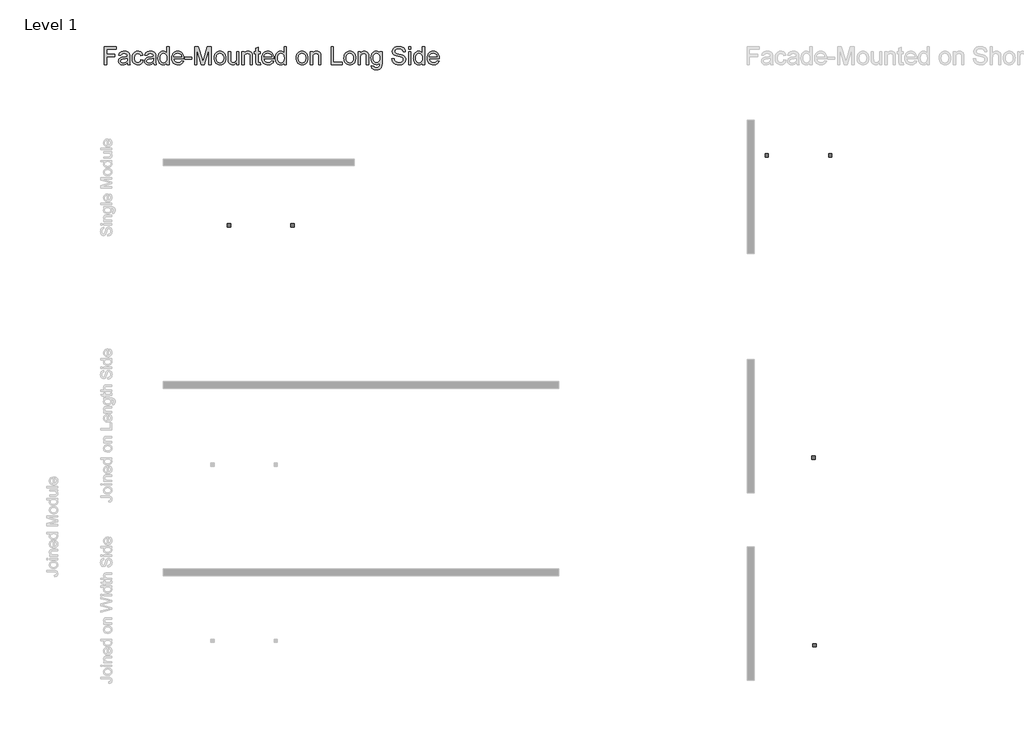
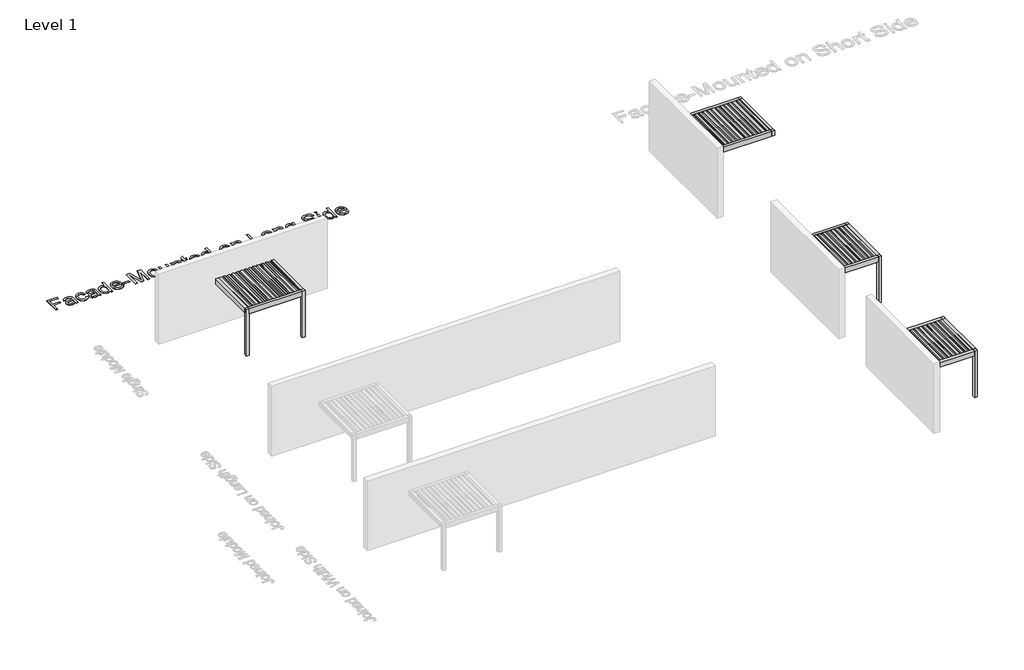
# One storey, part 12 of 69: 5 proxies.
"""IFC4 building model written with IfcOpenShell, lengths in millimetres."""

from ifc_helpers import new_model, si_unit, origin, origin_with_axes, place, context, project, spatial, polyline, outline, extrude, transform, mapped, element, save
from components import generic_models_66309c40, generic_models_ce49d216

model = new_model("IFC4")

# Units and contexts
model_context = context("Model", 3, world=origin())
ifc_project = project(units=[si_unit("LENGTHUNIT", "METRE", prefix="MILLI")], contexts=[model_context])

# Site, building, storey
site = spatial("IfcSite", under=ifc_project)
building = spatial("IfcBuilding", under=site)
storey = spatial("IfcBuildingStorey", under=building, Name="Level 1", Elevation=0.0)

# Proxies
placement = place(None, origin())
generic_models_shape = generic_models_66309c40(model_context)
element("IfcBuildingElementProxy", 1, Name="Renson_Camargue_Facade-Mounted_Patio covers : Renson_Camargue_Facade-Mounted_Patio covers", ObjectType="Renson_Camargue_Facade-Mounted_Patio covers : Renson_Camargue_Facade-Mounted_Patio covers", at=placement, inside=storey, context=model_context, shape_type="MappedRepresentation", body=[
    mapped(generic_models_shape, transform((14153.165057, -29850.5588086, 0.0), x_axis=(1.0, 0.0, 0.0), y_axis=(0.0, 1.0, 0.0), z_axis=(0.0, 0.0, 1.0))),
])
element("IfcBuildingElementProxy", 2, Name="Renson_Camargue_Facade-Mounted_Patio covers : Renson_Camargue_Facade-Mounted_Patio covers", ObjectType="Renson_Camargue_Facade-Mounted_Patio covers : Renson_Camargue_Facade-Mounted_Patio covers", at=placement, inside=storey, context=model_context, shape_type="MappedRepresentation", body=[
    mapped(generic_models_shape, transform((14111.7174277, -21425.9863343, 0.0), x_axis=(1.0, 0.0, 0.0), y_axis=(0.0, 1.0, 0.0), z_axis=(0.0, 0.0, 1.0))),
])
generic_models_2_shape = generic_models_ce49d216(model_context)
element("IfcBuildingElementProxy", 3, Name="Renson_Camargue_Facade-Mounted_Patio covers : Renson_Camargue_Facade-Mounted_Patio covers", ObjectType="Renson_Camargue_Facade-Mounted_Patio covers : Renson_Camargue_Facade-Mounted_Patio covers", at=placement, inside=storey, context=model_context, shape_type="MappedRepresentation", body=[
    mapped(generic_models_2_shape, transform((-9296.834943, -10975.9863343, 0.0), x_axis=(-1.0, 0.0, 0.0), y_axis=(0.0, -1.0, 0.0), z_axis=(0.0, 0.0, 1.0))),
])
element("IfcBuildingElementProxy", 4, Name="Renson_Camargue_Facade-Mounted_Patio covers : Renson_Camargue_Facade-Mounted_Patio covers", ObjectType="Renson_Camargue_Facade-Mounted_Patio covers : Renson_Camargue_Facade-Mounted_Patio covers", at=placement, inside=storey, context=model_context, shape_type="MappedRepresentation", body=[
    mapped(generic_models_2_shape, transform((14861.7174277, -10675.9863343, 0.0), x_axis=(1.0, 0.0, 0.0), y_axis=(0.0, 1.0, 0.0), z_axis=(0.0, 0.0, 1.0))),
])
element("IfcBuildingElementProxy", 5, Name="800mm Arial", ObjectType="800mm Arial", at=placement, inside=storey, context=model_context, shape_type="SweptSolid", body=[
    extrude(outline(polyline([(-16325.707895, -5171.4138599), (-16325.707895, -4372.0251615), (-15788.6186133, -4372.0251615), (-15788.6186133, -4471.9487488), (-16225.7843077, -4471.9487488), (-16225.7843077, -4709.2672686), (-15851.0708554, -4709.2672686), (-15851.0708554, -4809.1908559), (-16225.7843077, -4809.1908559), (-16225.7843077, -5171.4138599), (-16325.707895, -5171.4138599)])), origin_with_axes(), (0.0, 0.0, 1.0), 5.0),
    extrude(outline(polyline([(-15289.0006769, -5096.4711694), (-15336.7424885, -5137.4066624), (-15361.1439944, -5152.5684079), (-15385.8992337, -5164.1928194), (-15437.5931012, -5178.9764361), (-15492.9462798, -5183.9043083), (-15537.4374035, -5180.9402663), (-15576.4517582, -5172.0481404), (-15609.989344, -5157.2279307), (-15638.050161, -5136.479637), (-15660.2072895, -5111.1206113), (-15676.0338098, -5082.4682057), (-15685.529722, -5050.5224202), (-15688.695026, -5015.2832547), (-15683.9135263, -4973.8598535), (-15669.5690269, -4936.2421359), (-15647.4423927, -4904.0401986), (-15619.3144884, -4878.8641385), (-15586.2587118, -4859.835721), (-15549.348461, -4846.0767114), (-15462.8911384, -4831.0491406), (-15360.7231736, -4815.2409169), (-15289.5861666, -4796.7004075), (-15289.0006769, -4774.4517963), (-15290.7205531, -4750.2271571), (-15295.8801817, -4729.8569922), (-15304.4795627, -4713.3413016), (-15316.518696, -4700.6800854), (-15337.3279782, -4688.0432645), (-15362.6748062, -4679.0169639), (-15392.5591798, -4673.6011835), (-15426.9810992, -4671.7959234), (-15486.5058924, -4676.6018186), (-15509.5351566, -4682.6091876), (-15528.075666, -4691.0195042), (-15543.3105977, -4702.4914443), (-15556.423129, -4717.6836841), (-15567.4132599, -4736.5962234), (-15576.2809903, -4759.2290623), (-15676.2045776, -4746.7386139), (-15658.8594432, -4692.0929021), (-15646.9849788, -4669.1612194), (-15632.9759163, -4649.1569857), (-15616.2284694, -4631.6776765), (-15596.1388517, -4616.3207678), (-15572.7070632, -4603.0862594), (-15545.933104, -4591.9741515), (-15484.5298644, -4576.89779), (-15414.1003242, -4571.8723361), (-15346.5494421, -4576.3123002), (-15293.0015236, -4589.6321924), (-15252.627125, -4609.6608216), (-15224.5968023, -4634.2269965), (-15206.0075021, -4664.5992783), (-15193.956171, -4702.0462281), (-15190.2968599, -4736.5901245), (-15189.0770896, -4789.479367), (-15189.0770896, -4913.7983614), (-15187.8085284, -5022.0895733), (-15184.0028449, -5087.396078), (-15176.4890595, -5130.307599), (-15164.0961928, -5171.4138599), (-15264.0197801, -5171.4138599), (-15280.0231671, -5136.6748002), (-15289.0006769, -5096.4711694)]), holes=[polyline([(-15289.0006769, -4896.6239948), (-15356.1368371, -4913.2616624), (-15450.2055267, -4927.2646261), (-15502.0457667, -4934.9247839), (-15536.1749411, -4943.4631764), (-15558.5455294, -4954.5386912), (-15575.1100108, -4969.810216), (-15585.3560818, -4988.1067713), (-15588.7714388, -5008.2573775), (-15586.911289, -5023.7850541), (-15581.3308396, -5037.9709833), (-15572.0300907, -5050.8151651), (-15559.0090421, -5062.3175995), (-15542.3896711, -5071.7952152), (-15522.2939545, -5078.5649406), (-15471.6734849, -5083.980721), (-15418.0035894, -5078.0038463), (-15393.5106007, -5070.5327528), (-15370.5789181, -5060.0732221), (-15332.1317565, -5033.6529962), (-15305.3943904, -5002.2073165), (-15293.5382226, -4969.810216), (-15289.5861666, -4924.922667), (-15289.0006769, -4896.6239948)])]), origin_with_axes(), (0.0, 0.0, 1.0), 5.0),
    extrude(outline(polyline([(-14676.9687047, -4959.0762369), (-14577.0451174, -4971.5666853), (-14587.9132713, -5018.7169083), (-14604.9046723, -5060.4391532), (-14628.0193205, -5096.73342), (-14657.2572158, -5127.5997088), (-14691.3863903, -5152.2329711), (-14729.1748758, -5169.8281584), (-14770.6226724, -5180.3852708), (-14815.72978, -5183.9043083), (-14871.7721289, -5178.9947326), (-14922.0205686, -5164.2660056), (-14966.4750991, -5139.7181272), (-15005.1357204, -5105.3510976), (-15036.4289288, -5061.8113948), (-15058.7812205, -5009.7454973), (-15072.1925955, -4949.153405), (-15076.6630539, -4880.035118), (-15074.7541133, -4834.0924677), (-15069.0272915, -4791.1138593), (-15059.4825885, -4751.0992929), (-15046.1200042, -4714.0487684), (-15028.8480561, -4680.7063458), (-15007.5752611, -4651.816085), (-14982.3016194, -4627.377986), (-14953.0271309, -4607.3920488), (-14921.0752465, -4591.8521745), (-14887.7694171, -4580.7522643), (-14853.1096425, -4574.0923181), (-14817.0959228, -4571.8723361), (-14772.7633694, -4574.921762), (-14732.663419, -4584.0700396), (-14696.7960718, -4599.317169), (-14665.1613277, -4620.6631502), (-14638.2958857, -4647.620075), (-14616.7364447, -4679.7000353), (-14600.4830047, -4716.903031), (-14589.5355658, -4759.2290623), (-14689.4591531, -4771.7195107), (-14697.2595845, -4748.379205), (-14707.5849406, -4728.1249183), (-14720.4352212, -4710.9566506), (-14735.8104265, -4696.8744019), (-14753.3202299, -4685.9025675), (-14772.574305, -4678.065543), (-14793.5726516, -4673.3633283), (-14816.3152698, -4671.7959234), (-14850.2675776, -4674.8819424), (-14880.8899123, -4684.1399994), (-14908.1822739, -4699.5700943), (-14932.1446625, -4721.1722273), (-14951.6548893, -4749.4465041), (-14965.5907656, -4784.8930305), (-14973.9522913, -4827.5118066), (-14976.7394666, -4877.3028324), (-14974.0132798, -4927.844017), (-14965.8347196, -4970.9568001), (-14952.2037859, -5006.6411818), (-14933.1204788, -5034.897162), (-14909.6338006, -5056.3712191), (-14882.792754, -5071.7098312), (-14852.5973389, -5080.9129985), (-14819.0475554, -5083.980721), (-14792.0113455, -5082.0656815), (-14767.304897, -5076.3205632), (-14744.9282099, -5066.7453659), (-14724.8812842, -5053.3400897), (-14707.7252142, -5035.9583622), (-14694.0210942, -5014.4538109), (-14683.7689244, -4988.8264358), (-14676.9687047, -4959.0762369)])), origin_with_axes(), (0.0, 0.0, 1.0), 5.0),
    extrude(outline(polyline([(-14114.8985262, -5096.4711694), (-14162.6403378, -5137.4066624), (-14187.0418437, -5152.5684079), (-14211.797083, -5164.1928194), (-14263.4909506, -5178.9764361), (-14318.8441292, -5183.9043083), (-14363.3352528, -5180.9402663), (-14402.3496075, -5172.0481404), (-14435.8871933, -5157.2279307), (-14463.9480103, -5136.479637), (-14486.1051388, -5111.1206113), (-14501.9316591, -5082.4682057), (-14511.4275713, -5050.5224202), (-14514.5928754, -5015.2832547), (-14509.8113756, -4973.8598535), (-14495.4668762, -4936.2421359), (-14473.340242, -4904.0401986), (-14445.2123377, -4878.8641385), (-14412.1565611, -4859.835721), (-14375.2463103, -4846.0767114), (-14288.7889877, -4831.0491406), (-14186.6210229, -4815.2409169), (-14115.484016, -4796.7004075), (-14114.8985262, -4774.4517963), (-14116.6184024, -4750.2271571), (-14121.778031, -4729.8569922), (-14130.377412, -4713.3413016), (-14142.4165453, -4700.6800854), (-14163.2258276, -4688.0432645), (-14188.5726555, -4679.0169639), (-14218.4570291, -4673.6011835), (-14252.8789485, -4671.7959234), (-14312.4037417, -4676.6018186), (-14335.433006, -4682.6091876), (-14353.9735153, -4691.0195042), (-14369.208447, -4702.4914443), (-14382.3209783, -4717.6836841), (-14393.3111092, -4736.5962234), (-14402.1788397, -4759.2290623), (-14502.1024269, -4746.7386139), (-14484.7572925, -4692.0929021), (-14472.8828281, -4669.1612194), (-14458.8737656, -4649.1569857), (-14442.1263187, -4631.6776765), (-14422.036701, -4616.3207678), (-14398.6049125, -4603.0862594), (-14371.8309533, -4591.9741515), (-14310.4277137, -4576.89779), (-14239.9981736, -4571.8723361), (-14172.4472914, -4576.3123002), (-14118.8993729, -4589.6321924), (-14078.5249743, -4609.6608216), (-14050.4946516, -4634.2269965), (-14031.9053514, -4664.5992783), (-14019.8540203, -4702.0462281), (-14016.1947092, -4736.5901245), (-14014.9749389, -4789.479367), (-14014.9749389, -4913.7983614), (-14013.7063777, -5022.0895733), (-14009.9006942, -5087.396078), (-14002.3869089, -5130.307599), (-13989.9940421, -5171.4138599), (-14089.9176294, -5171.4138599), (-14105.9210164, -5136.6748002), (-14114.8985262, -5096.4711694)]), holes=[polyline([(-14114.8985262, -4896.6239948), (-14182.0346864, -4913.2616624), (-14276.103376, -4927.2646261), (-14327.943616, -4934.9247839), (-14362.0727905, -4943.4631764), (-14384.4433787, -4954.5386912), (-14401.0078601, -4969.810216), (-14411.2539311, -4988.1067713), (-14414.6692881, -5008.2573775), (-14412.8091383, -5023.7850541), (-14407.2286889, -5037.9709833), (-14397.92794, -5050.8151651), (-14384.9068915, -5062.3175995), (-14368.2875204, -5071.7952152), (-14348.1918038, -5078.5649406), (-14297.5713342, -5083.980721), (-14243.9014387, -5078.0038463), (-14219.40845, -5070.5327528), (-14196.4767674, -5060.0732221), (-14158.0296059, -5033.6529962), (-14131.2922397, -5002.2073165), (-14119.4360719, -4969.810216), (-14115.484016, -4924.922667), (-14114.8985262, -4896.6239948)])]), origin_with_axes(), (0.0, 0.0, 1.0), 5.0),
    extrude(outline(polyline([(-13515.3570024, -5171.4138599), (-13515.3570024, -5077.150007), (-13545.2535738, -5123.8550138), (-13562.5712634, -5142.2034093), (-13581.4685555, -5157.215733), (-13601.9454503, -5168.8919847), (-13624.0019477, -5177.2321644), (-13647.6380478, -5182.2362723), (-13672.8537504, -5183.9043083), (-13705.8363407, -5181.489163), (-13737.4527882, -5174.2437271), (-13767.703093, -5162.1680006), (-13796.5872549, -5145.2619835), (-13823.202644, -5124.0318805), (-13846.6466302, -5098.9838963), (-13866.9192135, -5070.1180309), (-13884.0203938, -5037.4342843), (-13897.5964379, -5001.5547394), (-13907.2936122, -4963.101479), (-13913.1119167, -4922.0745032), (-13915.0513516, -4878.473812), (-13913.264388, -4835.6720703), (-13907.9034973, -4794.8951474), (-13898.9686795, -4756.1430433), (-13886.4599345, -4719.415758), (-13870.3833613, -4685.7866893), (-13850.7450586, -4656.3292353), (-13827.5450265, -4631.0433959), (-13800.783265, -4609.9291711), (-13771.405096, -4593.2793058), (-13740.3558417, -4581.3865449), (-13707.635502, -4574.2508883), (-13673.2440769, -4571.8723361), (-13648.0924122, -4573.5739157), (-13624.3556811, -4578.6786547), (-13602.0338837, -4587.1865529), (-13581.1270198, -4599.0976104), (-13544.4851185, -4630.3969176), (-13515.3570024, -4669.8442908), (-13515.3570024, -4372.0251615), (-13415.4334151, -4372.0251615), (-13415.4334151, -5171.4138599), (-13515.3570024, -5171.4138599)]), holes=[polyline([(-13815.1277643, -4878.0834854), (-13812.3100948, -4926.5388627), (-13803.8570862, -4968.4684686), (-13789.7687387, -5003.8723031), (-13770.0450521, -5032.7503662), (-13746.4912866, -5055.1636464), (-13720.9127023, -5071.1731323), (-13693.3092992, -5080.7788238), (-13663.6810773, -5083.980721), (-13633.9125819, -5080.9251962), (-13606.4738478, -5071.758622), (-13581.3648751, -5056.4809984), (-13558.5856637, -5035.0923252), (-13539.6731244, -5007.4218348), (-13526.1641678, -4973.2987592), (-13518.0587938, -4932.7230984), (-13515.3570024, -4885.6948524), (-13518.1075846, -4834.1351596), (-13526.359331, -4789.9184844), (-13540.1122417, -4753.0448266), (-13559.3663168, -4723.5141864), (-13582.6456339, -4700.8874463), (-13608.4742712, -4684.7254891), (-13636.8522284, -4675.0283148), (-13667.7795057, -4671.7959234), (-13697.9932173, -4674.9002389), (-13725.5966204, -4684.2131856), (-13750.5897149, -4699.7347633), (-13772.9725009, -4721.4649722), (-13791.4154287, -4749.8795225), (-13804.5889485, -4785.4541249), (-13812.4930603, -4828.1887792), (-13815.1277643, -4878.0834854)])]), origin_with_axes(), (0.0, 0.0, 1.0), 5.0),
    extrude(outline(polyline([(-12854.5342162, -4996.5475821), (-12756.5622614, -5009.0380305), (-12771.5837333, -5048.2780428), (-12791.8624154, -5082.8585323), (-12817.3983078, -5112.779499), (-12848.1914103, -5138.040943), (-12883.9245828, -5158.1061653), (-12924.2806849, -5172.438467), (-12969.2597167, -5181.0378479), (-13018.8616781, -5183.9043083), (-13080.8626051, -5178.9581395), (-13136.1060044, -5164.1196332), (-13184.5918759, -5139.3887893), (-13226.3202197, -5104.7656078), (-13259.8761021, -5061.2137074), (-13283.8445895, -5009.6967065), (-13298.2256819, -4950.2146053), (-13303.0193794, -4882.7674036), (-13298.1768911, -4813.0331325), (-13283.6494262, -4751.5689045), (-13259.4369847, -4698.3747194), (-13243.6988978, -4674.878893), (-13225.5395666, -4653.4505773), (-13183.9210022, -4617.7600968), (-13136.5451217, -4592.2668964), (-13083.4119251, -4576.9709762), (-13024.5214125, -4571.8723361), (-12967.5276428, -4576.9587785), (-12915.9862465, -4592.2181056), (-12869.8972237, -4617.6503174), (-12829.2605744, -4653.255414), (-12796.0889197, -4698.0819745), (-12772.3948806, -4751.178578), (-12758.1784571, -4812.5452244), (-12753.4396493, -4882.1819138), (-12754.0251391, -4909.1144432), (-13203.0957921, -4909.1144432), (-13197.3079818, -4948.9887361), (-13185.7994485, -4983.9107612), (-13168.5701923, -5013.8805188), (-13145.6202131, -5038.8980087), (-13118.2180721, -5058.6216954), (-13087.6323306, -5072.7100429), (-13053.8629883, -5081.1630515), (-13016.9100455, -5083.980721), (-12963.7280581, -5078.7601039), (-12918.9380908, -5063.0982525), (-12899.6901146, -5051.10791), (-12882.5401435, -5036.0193507), (-12867.4881773, -5017.8325748), (-12854.5342162, -4996.5475821)]), holes=[polyline([(-13203.0957921, -4809.1908559), (-12853.3632366, -4809.1908559), (-12858.4984698, -4780.9165792), (-12866.8782921, -4756.3991951), (-12878.5027036, -4735.6387037), (-12893.3717042, -4718.6351049), (-12920.6213739, -4698.142963), (-12951.6279362, -4683.5057188), (-12986.3913913, -4674.7233722), (-13024.911739, -4671.7959234), (-13060.047224, -4674.1317836), (-13092.2674579, -4681.1393643), (-13121.5724406, -4692.8186654), (-13147.9621722, -4709.169687), (-13170.107103, -4729.4361714), (-13186.6776832, -4752.861861), (-13197.6739129, -4779.4467559), (-13203.0957921, -4809.1908559)])]), origin_with_axes(), (0.0, 0.0, 1.0), 5.0),
    extrude(outline(polyline([(-12703.4778557, -4934.09534), (-12703.4778557, -4834.1717528), (-12391.2166454, -4834.1717528), (-12391.2166454, -4934.09534), (-12703.4778557, -4934.09534)])), origin_with_axes(), (0.0, 0.0, 1.0), 5.0),
    extrude(outline(polyline([(-12266.3121613, -5171.4138599), (-12266.3121613, -4372.0251615), (-12094.3733324, -4372.0251615), (-11930.8265235, -4935.4614828), (-11897.8439331, -5053.1449265), (-11862.1290572, -4925.70332), (-11701.3145339, -4372.0251615), (-11529.375705, -4372.0251615), (-11529.375705, -5171.4138599), (-11629.2992923, -5171.4138599), (-11629.2992923, -4471.9487488), (-11830.1222831, -5171.4138599), (-11965.5655831, -5171.4138599), (-12166.388574, -4471.9487488), (-12166.388574, -5171.4138599), (-12266.3121613, -5171.4138599)])), origin_with_axes(), (0.0, 0.0, 1.0), 5.0),
    extrude(outline(polyline([(-11391.9807725, -4877.8883222), (-11386.5771898, -4801.8600361), (-11379.8227115, -4767.7888007), (-11370.3664418, -4736.3461705), (-11358.2083808, -4707.5321453), (-11343.3485285, -4681.3467253), (-11325.7868848, -4657.7899103), (-11305.5234499, -4636.8617005), (-11267.4422194, -4608.4288536), (-11225.4089331, -4588.1196772), (-11179.4235908, -4575.9341714), (-11129.4861926, -4571.8723361), (-11074.3586715, -4576.8185049), (-11024.512756, -4591.6570112), (-10979.9484462, -4616.3878551), (-10940.665742, -4651.0110366), (-10908.6040782, -4694.3555761), (-10885.7028899, -4745.250494), (-10871.9621768, -4803.6957905), (-10867.3819392, -4869.6914654), (-10869.406758, -4923.1783954), (-10875.4812143, -4970.6396598), (-10885.6053082, -5012.0752587), (-10899.7790397, -5047.485192), (-10917.8255421, -5078.0709336), (-10939.5679486, -5105.0339573), (-10965.0062593, -5128.374263), (-10994.1404742, -5148.0918507), (-11025.8362068, -5163.7598009), (-11058.9590708, -5174.9511939), (-11093.509066, -5181.6660297), (-11129.4861926, -5183.9043083), (-11185.4187621, -5178.9764361), (-11235.7281903, -5164.1928194), (-11280.4144771, -5139.5534583), (-11319.4776227, -5105.0583527), (-11351.1977507, -5061.2929924), (-11373.854985, -5008.8428673), (-11387.4493256, -4947.7079772), (-11391.9807725, -4877.8883222)]), holes=[polyline([(-11292.0571852, -4877.6931589), (-11289.1663294, -4926.1607339), (-11280.4937622, -4968.1269329), (-11266.0394835, -5003.5917559), (-11245.8034934, -5032.5552029), (-11221.1885277, -5055.0538671), (-11193.5973223, -5071.1243415), (-11163.0298773, -5080.7666261), (-11129.4861926, -5083.980721), (-11096.1132757, -5080.7483295), (-11065.6678077, -5071.0511552), (-11038.1497885, -5054.8891981), (-11013.5592182, -5032.262458), (-10993.3232281, -5003.012365), (-10978.8689494, -4966.9803488), (-10970.1963822, -4924.1664094), (-10967.3055265, -4874.5705468), (-10970.2146788, -4827.6398825), (-10978.9421356, -4786.7714768), (-10993.4878971, -4751.9653298), (-11013.8519631, -4723.2214415), (-11038.5340162, -4700.7227773), (-11066.0337388, -4684.6523029), (-11096.3511309, -4675.0100183), (-11129.4861926, -4671.7959234), (-11163.0298773, -4674.9978206), (-11193.5973223, -4684.6035121), (-11221.1885277, -4700.612998), (-11245.8034934, -4723.0262782), (-11266.0394835, -4751.9043413), (-11280.4937622, -4787.3081758), (-11289.1663294, -4829.2377817), (-11292.0571852, -4877.6931589)])]), origin_with_axes(), (0.0, 0.0, 1.0), 5.0),
    extrude(outline(polyline([(-10380.2544511, -5171.4138599), (-10380.2544511, -5070.5144563), (-10397.5873878, -5097.0902028), (-10416.4084444, -5120.1225165), (-10436.7176207, -5139.6113973), (-10458.5149169, -5155.5568453), (-10481.800333, -5167.9588603), (-10506.5738688, -5176.8174425), (-10532.8355245, -5182.1325918), (-10560.5853001, -5183.9043083), (-10609.2541371, -5178.9276452), (-10654.556408, -5163.9976561), (-10692.5644522, -5141.5538816), (-10719.3506092, -5114.0358625), (-10737.378815, -5080.6141548), (-10749.1130058, -5040.4593148), (-10753.504179, -5002.5976431), (-10754.9679035, -4947.5616047), (-10754.9679035, -4584.3627845), (-10655.0443162, -4584.3627845), (-10655.0443162, -4900.5272599), (-10653.5318009, -4963.760155), (-10648.9942552, -5002.4024798), (-10643.0112816, -5020.4123891), (-10634.4301972, -5036.3852818), (-10623.2510019, -5050.3211581), (-10609.4736958, -5062.2200179), (-10593.5130007, -5071.7403255), (-10575.7836387, -5078.5405452), (-10535.0189135, -5083.980721), (-10491.9122292, -5078.4185682), (-10451.5866213, -5061.7321098), (-10433.540119, -5049.6014936), (-10418.3356815, -5035.4582564), (-10405.973309, -5019.302398), (-10396.4530014, -5001.1339186), (-10384.3040887, -4954.1239692), (-10380.2544511, -4889.7932808), (-10380.2544511, -4584.3627845), (-10280.3308638, -4584.3627845), (-10280.3308638, -5171.4138599), (-10380.2544511, -5171.4138599)])), origin_with_axes(), (0.0, 0.0, 1.0), 5.0),
    extrude(outline(polyline([(-10142.9359313, -5171.4138599), (-10142.9359313, -4584.3627845), (-10043.012344, -4584.3627845), (-10043.012344, -4666.3313522), (-10026.5271477, -4644.1925203), (-10008.2976798, -4625.0055327), (-9988.3239402, -4608.7703893), (-9966.6059291, -4595.4870901), (-9943.1436464, -4585.1556352), (-9917.937092, -4577.7760246), (-9862.2911686, -4571.8723361), (-9813.0368417, -4576.6294405), (-9767.9297341, -4590.9007536), (-9730.3120164, -4612.9054108), (-9703.5258594, -4640.8625473), (-9685.3512812, -4674.6989768), (-9673.5682996, -4714.3415133), (-9669.6162436, -4752.2519759), (-9668.2988917, -4810.9473252), (-9668.2988917, -5171.4138599), (-9768.222479, -5171.4138599), (-9768.222479, -4824.4135899), (-9771.101137, -4772.7441178), (-9779.7371111, -4736.0046348), (-9795.6673119, -4709.6819906), (-9820.42865, -4689.2630349), (-9852.1670746, -4676.1627013), (-9889.0285347, -4671.7959234), (-9919.3703222, -4674.2476618), (-9947.5531162, -4681.602877), (-9973.5769167, -4693.8615691), (-9997.4417236, -4711.0237379), (-10017.37887, -4735.0410162), (-10031.6196889, -4767.8650364), (-10040.1641802, -4809.4957985), (-10043.012344, -4859.9333026), (-10043.012344, -5171.4138599), (-10142.9359313, -5171.4138599)])), origin_with_axes(), (0.0, 0.0, 1.0), 5.0),
    extrude(outline(polyline([(-9318.5663361, -5088.0791494), (-9306.0758877, -5174.3413087), (-9345.645238, -5181.5135584), (-9380.8234149, -5183.9043083), (-9428.7847852, -5179.7570891), (-9464.5484519, -5167.3154315), (-9489.8220937, -5148.1406415), (-9506.3133888, -5123.7940253), (-9515.3884802, -5081.9802976), (-9518.4135107, -5010.4041733), (-9518.4135107, -4684.2863718), (-9593.3562012, -4684.2863718), (-9593.3562012, -4584.3627845), (-9518.4135107, -4584.3627845), (-9518.4135107, -4441.6984441), (-9418.4899234, -4382.9543039), (-9418.4899234, -4584.3627845), (-9318.5663361, -4584.3627845), (-9318.5663361, -4684.2863718), (-9418.4899234, -4684.2863718), (-9418.4899234, -5007.4767245), (-9417.1725714, -5040.3617332), (-9413.2205155, -5058.9998242), (-9406.3166153, -5069.3190813), (-9396.1437306, -5077.2475886), (-9381.726045, -5082.2974379), (-9362.0877423, -5083.980721), (-9318.5663361, -5088.0791494)])), origin_with_axes(), (0.0, 0.0, 1.0), 5.0),
    extrude(outline(polyline([(-8807.6289308, -4996.5475821), (-8709.6569761, -5009.0380305), (-8724.678448, -5048.2780428), (-8744.9571301, -5082.8585323), (-8770.4930224, -5112.779499), (-8801.286125, -5138.040943), (-8837.0192974, -5158.1061653), (-8877.3753996, -5172.438467), (-8922.3544313, -5181.0378479), (-8971.9563927, -5183.9043083), (-9033.9573197, -5178.9581395), (-9089.200719, -5164.1196332), (-9137.6865905, -5139.3887893), (-9179.4149343, -5104.7656078), (-9212.9708167, -5061.2137074), (-9236.9393041, -5009.6967065), (-9251.3203966, -4950.2146053), (-9256.1140941, -4882.7674036), (-9251.2716058, -4813.0331325), (-9236.7441409, -4751.5689045), (-9212.5316994, -4698.3747194), (-9196.7936124, -4674.878893), (-9178.6342813, -4653.4505773), (-9137.0157168, -4617.7600968), (-9089.6398363, -4592.2668964), (-9036.5066398, -4576.9709762), (-8977.6161271, -4571.8723361), (-8920.6223574, -4576.9587785), (-8869.0809612, -4592.2181056), (-8822.9919384, -4617.6503174), (-8782.3552891, -4653.255414), (-8749.1836343, -4698.0819745), (-8725.4895952, -4751.178578), (-8711.2731718, -4812.5452244), (-8706.534364, -4882.1819138), (-8707.1198537, -4909.1144432), (-9156.1905068, -4909.1144432), (-9150.4026965, -4948.9887361), (-9138.8941632, -4983.9107612), (-9121.6649069, -5013.8805188), (-9098.7149278, -5038.8980087), (-9071.3127868, -5058.6216954), (-9040.7270452, -5072.7100429), (-9006.957703, -5081.1630515), (-8970.0047601, -5083.980721), (-8916.8227728, -5078.7601039), (-8872.0328054, -5063.0982525), (-8852.7848293, -5051.10791), (-8835.6348581, -5036.0193507), (-8820.5828919, -5017.8325748), (-8807.6289308, -4996.5475821)]), holes=[polyline([(-9156.1905068, -4809.1908559), (-8806.4579513, -4809.1908559), (-8811.5931844, -4780.9165792), (-8819.9730068, -4756.3991951), (-8831.5974182, -4735.6387037), (-8846.4664188, -4718.6351049), (-8873.7160885, -4698.142963), (-8904.7226509, -4683.5057188), (-8939.4861059, -4674.7233722), (-8978.0064537, -4671.7959234), (-9013.1419387, -4674.1317836), (-9045.3621725, -4681.1393643), (-9074.6671553, -4692.8186654), (-9101.0568868, -4709.169687), (-9123.2018176, -4729.4361714), (-9139.7723978, -4752.861861), (-9150.7686276, -4779.4467559), (-9156.1905068, -4809.1908559)])]), origin_with_axes(), (0.0, 0.0, 1.0), 5.0),
    extrude(outline(polyline([(-8244.3877727, -5171.4138599), (-8244.3877727, -5077.150007), (-8274.2843441, -5123.8550138), (-8291.6020337, -5142.2034093), (-8310.4993259, -5157.215733), (-8330.9762206, -5168.8919847), (-8353.0327181, -5177.2321644), (-8376.6688181, -5182.2362723), (-8401.8845207, -5183.9043083), (-8434.867111, -5181.489163), (-8466.4835586, -5174.2437271), (-8496.7338633, -5162.1680006), (-8525.6180253, -5145.2619835), (-8552.2334143, -5124.0318805), (-8575.6774005, -5098.9838963), (-8595.9499838, -5070.1180309), (-8613.0511641, -5037.4342843), (-8626.6272082, -5001.5547394), (-8636.3243825, -4963.101479), (-8642.142687, -4922.0745032), (-8644.0821219, -4878.473812), (-8642.2951583, -4835.6720703), (-8636.9342676, -4794.8951474), (-8627.9994498, -4756.1430433), (-8615.4907048, -4719.415758), (-8599.4141316, -4685.7866893), (-8579.7758289, -4656.3292353), (-8556.5757968, -4631.0433959), (-8529.8140353, -4609.9291711), (-8500.4358663, -4593.2793058), (-8469.386612, -4581.3865449), (-8436.6662723, -4574.2508883), (-8402.2748472, -4571.8723361), (-8377.1231825, -4573.5739157), (-8353.3864515, -4578.6786547), (-8331.064654, -4587.1865529), (-8310.1577902, -4599.0976104), (-8273.5158888, -4630.3969176), (-8244.3877727, -4669.8442908), (-8244.3877727, -4372.0251615), (-8144.4641854, -4372.0251615), (-8144.4641854, -5171.4138599), (-8244.3877727, -5171.4138599)]), holes=[polyline([(-8544.1585346, -4878.0834854), (-8541.3408651, -4926.5388627), (-8532.8878566, -4968.4684686), (-8518.799509, -5003.8723031), (-8499.0758224, -5032.7503662), (-8475.5220569, -5055.1636464), (-8449.9434726, -5071.1731323), (-8422.3400695, -5080.7788238), (-8392.7118476, -5083.980721), (-8362.9433522, -5080.9251962), (-8335.5046181, -5071.758622), (-8310.3956454, -5056.4809984), (-8287.616434, -5035.0923252), (-8268.7038947, -5007.4218348), (-8255.1949381, -4973.2987592), (-8247.0895641, -4932.7230984), (-8244.3877727, -4885.6948524), (-8247.1383549, -4834.1351596), (-8255.3901013, -4789.9184844), (-8269.143012, -4753.0448266), (-8288.3970871, -4723.5141864), (-8311.6764042, -4700.8874463), (-8337.5050415, -4684.7254891), (-8365.8829987, -4675.0283148), (-8396.810276, -4671.7959234), (-8427.0239876, -4674.9002389), (-8454.6273907, -4684.2131856), (-8479.6204853, -4699.7347633), (-8502.0032712, -4721.4649722), (-8520.446199, -4749.8795225), (-8533.6197188, -4785.4541249), (-8541.5238307, -4828.1887792), (-8544.1585346, -4878.0834854)])]), origin_with_axes(), (0.0, 0.0, 1.0), 5.0),
    extrude(outline(polyline([(-7707.298491, -4877.8883222), (-7701.8949084, -4801.8600361), (-7695.14043, -4767.7888007), (-7685.6841604, -4736.3461705), (-7673.5260994, -4707.5321453), (-7658.6662471, -4681.3467253), (-7641.1046034, -4657.7899103), (-7620.8411684, -4636.8617005), (-7582.759938, -4608.4288536), (-7540.7266517, -4588.1196772), (-7494.7413094, -4575.9341714), (-7444.8039111, -4571.8723361), (-7389.67639, -4576.8185049), (-7339.8304746, -4591.6570112), (-7295.2661647, -4616.3878551), (-7255.9834605, -4651.0110366), (-7223.9217968, -4694.3555761), (-7201.0206084, -4745.250494), (-7187.2798954, -4803.6957905), (-7182.6996578, -4869.6914654), (-7184.7244765, -4923.1783954), (-7190.7989329, -4970.6396598), (-7200.9230268, -5012.0752587), (-7215.0967583, -5047.485192), (-7233.1432607, -5078.0709336), (-7254.8856672, -5105.0339573), (-7280.3239779, -5128.374263), (-7309.4581928, -5148.0918507), (-7341.1539254, -5163.7598009), (-7374.2767893, -5174.9511939), (-7408.8267846, -5181.6660297), (-7444.8039111, -5183.9043083), (-7500.7364807, -5178.9764361), (-7551.0459089, -5164.1928194), (-7595.7321957, -5139.5534583), (-7634.7953413, -5105.0583527), (-7666.5154693, -5061.2929924), (-7689.1727036, -5008.8428673), (-7702.7670442, -4947.7079772), (-7707.298491, -4877.8883222)]), holes=[polyline([(-7607.3749037, -4877.6931589), (-7604.484048, -4926.1607339), (-7595.8114808, -4968.1269329), (-7581.3572021, -5003.5917559), (-7561.121212, -5032.5552029), (-7536.5062463, -5055.0538671), (-7508.9150409, -5071.1243415), (-7478.3475958, -5080.7666261), (-7444.8039111, -5083.980721), (-7411.4309943, -5080.7483295), (-7380.9855263, -5071.0511552), (-7353.4675071, -5054.8891981), (-7328.8769368, -5032.262458), (-7308.6409467, -5003.012365), (-7294.186668, -4966.9803488), (-7285.5141008, -4924.1664094), (-7282.623245, -4874.5705468), (-7285.5323973, -4827.6398825), (-7294.2598542, -4786.7714768), (-7308.8056157, -4751.9653298), (-7329.1696817, -4723.2214415), (-7353.8517348, -4700.7227773), (-7381.3514574, -4684.6523029), (-7411.6688495, -4675.0100183), (-7444.8039111, -4671.7959234), (-7478.3475958, -4674.9978206), (-7508.9150409, -4684.6035121), (-7536.5062463, -4700.612998), (-7561.121212, -4723.0262782), (-7581.3572021, -4751.9043413), (-7595.8114808, -4787.3081758), (-7604.484048, -4829.2377817), (-7607.3749037, -4877.6931589)])]), origin_with_axes(), (0.0, 0.0, 1.0), 5.0),
    extrude(outline(polyline([(-7070.285622, -5171.4138599), (-7070.285622, -4584.3627845), (-6970.3620348, -4584.3627845), (-6970.3620348, -4666.3313522), (-6953.8768384, -4644.1925203), (-6935.6473705, -4625.0055327), (-6915.673631, -4608.7703893), (-6893.9556199, -4595.4870901), (-6870.4933371, -4585.1556352), (-6845.2867828, -4577.7760246), (-6789.6408593, -4571.8723361), (-6740.3865325, -4576.6294405), (-6695.2794248, -4590.9007536), (-6657.6617071, -4612.9054108), (-6630.8755502, -4640.8625473), (-6612.7009719, -4674.6989768), (-6600.9179903, -4714.3415133), (-6596.9659344, -4752.2519759), (-6595.6485824, -4810.9473252), (-6595.6485824, -5171.4138599), (-6695.5721697, -5171.4138599), (-6695.5721697, -4824.4135899), (-6698.4508277, -4772.7441178), (-6707.0868018, -4736.0046348), (-6723.0170026, -4709.6819906), (-6747.7783408, -4689.2630349), (-6779.5167654, -4676.1627013), (-6816.3782254, -4671.7959234), (-6846.720013, -4674.2476618), (-6874.902807, -4681.602877), (-6900.9266074, -4693.8615691), (-6924.7914144, -4711.0237379), (-6944.7285608, -4735.0410162), (-6958.9693797, -4767.8650364), (-6967.513871, -4809.4957985), (-6970.3620348, -4859.9333026), (-6970.3620348, -5171.4138599), (-7070.285622, -5171.4138599)])), origin_with_axes(), (0.0, 0.0, 1.0), 5.0),
    extrude(outline(polyline([(-6133.5019912, -5171.4138599), (-6133.5019912, -4372.0251615), (-6033.5784039, -4372.0251615), (-6033.5784039, -5071.4902726), (-5633.8840547, -5071.4902726), (-5633.8840547, -5171.4138599), (-6133.5019912, -5171.4138599)])), origin_with_axes(), (0.0, 0.0, 1.0), 5.0),
    extrude(outline(polyline([(-5558.9413642, -4877.8883222), (-5553.5377816, -4801.8600361), (-5546.7833033, -4767.7888007), (-5537.3270336, -4736.3461705), (-5525.1689726, -4707.5321453), (-5510.3091203, -4681.3467253), (-5492.7474766, -4657.7899103), (-5472.4840416, -4636.8617005), (-5434.4028112, -4608.4288536), (-5392.3695249, -4588.1196772), (-5346.3841826, -4575.9341714), (-5296.4467843, -4571.8723361), (-5241.3192633, -4576.8185049), (-5191.4733478, -4591.6570112), (-5146.909038, -4616.3878551), (-5107.6263337, -4651.0110366), (-5075.56467, -4694.3555761), (-5052.6634817, -4745.250494), (-5038.9227686, -4803.6957905), (-5034.342531, -4869.6914654), (-5036.3673497, -4923.1783954), (-5042.4418061, -4970.6396598), (-5052.5659, -5012.0752587), (-5066.7396315, -5047.485192), (-5084.7861339, -5078.0709336), (-5106.5285404, -5105.0339573), (-5131.9668511, -5128.374263), (-5161.101066, -5148.0918507), (-5192.7967986, -5163.7598009), (-5225.9196626, -5174.9511939), (-5260.4696578, -5181.6660297), (-5296.4467843, -5183.9043083), (-5352.3793539, -5178.9764361), (-5402.6887821, -5164.1928194), (-5447.3750689, -5139.5534583), (-5486.4382145, -5105.0583527), (-5518.1583425, -5061.2929924), (-5540.8155768, -5008.8428673), (-5554.4099174, -4947.7079772), (-5558.9413642, -4877.8883222)]), holes=[polyline([(-5459.017777, -4877.6931589), (-5456.1269212, -4926.1607339), (-5447.454354, -4968.1269329), (-5433.0000753, -5003.5917559), (-5412.7640852, -5032.5552029), (-5388.1491195, -5055.0538671), (-5360.5579141, -5071.1243415), (-5329.990469, -5080.7666261), (-5296.4467843, -5083.980721), (-5263.0738675, -5080.7483295), (-5232.6283995, -5071.0511552), (-5205.1103803, -5054.8891981), (-5180.51981, -5032.262458), (-5160.2838199, -5003.012365), (-5145.8295412, -4966.9803488), (-5137.156974, -4924.1664094), (-5134.2661182, -4874.5705468), (-5137.1752705, -4827.6398825), (-5145.9027274, -4786.7714768), (-5160.4484889, -4751.9653298), (-5180.8125549, -4723.2214415), (-5205.494608, -4700.7227773), (-5232.9943306, -4684.6523029), (-5263.3117227, -4675.0100183), (-5296.4467843, -4671.7959234), (-5329.990469, -4674.9978206), (-5360.5579141, -4684.6035121), (-5388.1491195, -4700.612998), (-5412.7640852, -4723.0262782), (-5433.0000753, -4751.9043413), (-5447.454354, -4787.3081758), (-5456.1269212, -4829.2377817), (-5459.017777, -4877.6931589)])]), origin_with_axes(), (0.0, 0.0, 1.0), 5.0),
    extrude(outline(polyline([(-4921.9284953, -5171.4138599), (-4921.9284953, -4584.3627845), (-4822.004908, -4584.3627845), (-4822.004908, -4666.3313522), (-4805.5197116, -4644.1925203), (-4787.2902437, -4625.0055327), (-4767.3165042, -4608.7703893), (-4745.5984931, -4595.4870901), (-4722.1362103, -4585.1556352), (-4696.929656, -4577.7760246), (-4641.2837325, -4571.8723361), (-4592.0294057, -4576.6294405), (-4546.922298, -4590.9007536), (-4509.3045803, -4612.9054108), (-4482.5184234, -4640.8625473), (-4464.3438451, -4674.6989768), (-4452.5608635, -4714.3415133), (-4448.6088076, -4752.2519759), (-4447.2914556, -4810.9473252), (-4447.2914556, -5171.4138599), (-4547.2150429, -5171.4138599), (-4547.2150429, -4824.4135899), (-4550.0937009, -4772.7441178), (-4558.729675, -4736.0046348), (-4574.6598758, -4709.6819906), (-4599.421214, -4689.2630349), (-4631.1596386, -4676.1627013), (-4668.0210986, -4671.7959234), (-4698.3628862, -4674.2476618), (-4726.5456802, -4681.602877), (-4752.5694806, -4693.8615691), (-4776.4342876, -4711.0237379), (-4796.371434, -4735.0410162), (-4810.6122529, -4767.8650364), (-4819.1567442, -4809.4957985), (-4822.004908, -4859.9333026), (-4822.004908, -5171.4138599), (-4921.9284953, -5171.4138599)])), origin_with_axes(), (0.0, 0.0, 1.0), 5.0),
    extrude(outline(polyline([(-4334.8774199, -5221.3756535), (-4234.9538326, -5233.8661019), (-4230.7334272, -5250.6989328), (-4223.9271086, -5265.092223), (-4214.5348769, -5277.0459724), (-4202.556732, -5286.5601812), (-4183.1745811, -5296.2939486), (-4160.5478411, -5303.2466396), (-4105.5605936, -5308.8087924), (-4074.358868, -5307.2352886), (-4046.914035, -5302.5147774), (-4023.2260948, -5294.6472586), (-4003.2950472, -5283.6327323), (-3986.7061704, -5269.7761411), (-3973.0447425, -5253.3824276), (-3962.3107634, -5234.4515917), (-3954.5042331, -5212.9836335), (-3949.0884528, -5169.9989263), (-3947.6735191, -5096.4711694), (-3980.924459, -5129.2585965), (-4018.0298731, -5152.6781872), (-4058.9897615, -5166.7299417), (-4103.8041243, -5171.4138599), (-4158.5901097, -5165.9614864), (-4206.8259283, -5149.604366), (-4228.487525, -5137.3365256), (-4248.5115801, -5122.3424986), (-4283.6470651, -5084.1758842), (-4311.5249165, -5038.3857052), (-4331.4376675, -4988.2531437), (-4343.3853181, -4933.7781998), (-4347.3678683, -4874.9608733), (-4345.5809048, -4833.8119205), (-4340.2200141, -4794.2852622), (-4331.2851962, -4756.3808985), (-4318.7764513, -4720.0988294), (-4302.8828436, -4686.6466274), (-4283.7934375, -4657.2318654), (-4261.5082332, -4631.8545432), (-4236.0272305, -4610.5146609), (-4207.7590526, -4593.6086438), (-4177.1123225, -4581.5329173), (-4144.0870402, -4574.2874814), (-4108.6832057, -4571.8723361), (-4061.9538035, -4577.3369073), (-4019.5423883, -4593.7306208), (-3981.4489602, -4621.0534767), (-3947.6735191, -4659.305475), (-3947.6735191, -4584.3627845), (-3847.7499319, -4584.3627845), (-3847.7499319, -5091.2017615), (-3849.4576103, -5154.7091049), (-3854.5806458, -5208.2265291), (-3863.1190383, -5251.7540341), (-3875.0727878, -5285.29162), (-3890.7285402, -5312.3400276), (-3910.3729418, -5336.3999978), (-3934.0059923, -5357.4715306), (-3961.627692, -5375.5546261), (-3992.9574935, -5390.0698933), (-4027.7148497, -5400.4379413), (-4065.8997606, -5406.6587701), (-4107.5122262, -5408.7323797), (-4156.4677093, -5405.8110297), (-4200.4831224, -5397.0469797), (-4239.5584657, -5382.4402297), (-4273.693739, -5361.9907798), (-4301.2666478, -5335.6742344), (-4320.6548976, -5303.4661982), (-4331.8584883, -5265.3666713), (-4334.8774199, -5221.3756535)]), holes=[polyline([(-4247.444281, -4868.1301594), (-4244.7790828, -4917.5369575), (-4236.7834881, -4959.7837037), (-4223.457497, -4994.8703979), (-4204.8011095, -5022.7970401), (-4182.1194798, -5044.1003293), (-4156.7177622, -5059.3169645), (-4128.5959567, -5068.4469455), (-4097.7540633, -5071.4902726), (-4067.2171126, -5068.4652421), (-4039.2294818, -5059.3901507), (-4013.7911711, -5044.2649983), (-3990.9021804, -5023.089785), (-3971.9896411, -4995.4375911), (-3958.4806845, -4960.881497), (-3950.3753105, -4919.4215027), (-3947.6735191, -4871.0576082), (-3950.4545956, -4824.7124337), (-3958.7978248, -4784.4295178), (-3972.7032068, -4750.2088605), (-3992.1707416, -4722.0504619), (-4015.5537393, -4700.0641013), (-4041.2055098, -4684.359558), (-4069.1260532, -4674.9368321), (-4099.3153694, -4671.7959234), (-4128.9984809, -4674.8880412), (-4156.3762265, -4684.1643948), (-4181.4486061, -4699.624984), (-4204.2156197, -4721.2698089), (-4223.128159, -4749.0012879), (-4236.6371157, -4782.7218393), (-4244.7424897, -4822.4314631), (-4247.444281, -4868.1301594)])]), origin_with_axes(), (0.0, 0.0, 1.0), 5.0),
    extrude(outline(polyline([(-3410.5842374, -4896.6239948), (-3310.6606502, -4896.6239948), (-3299.1948088, -4952.074755), (-3289.9855427, -4975.7200033), (-3278.4587128, -4996.6451637), (-3264.0288296, -5015.271057), (-3246.1104031, -5032.018504), (-3224.7034334, -5046.8875046), (-3199.8079205, -5059.8780588), (-3172.3386922, -5070.4229735), (-3143.2105761, -5077.9550554), (-3079.9776811, -5083.980721), (-3024.3073622, -5079.4187799), (-2975.5653389, -5065.7329565), (-2936.0691748, -5044.069835), (-2920.6573764, -5030.6767566), (-2908.1364338, -5015.5759996), (-2891.5231616, -4982.8617587), (-2885.9854042, -4948.537421), (-2890.1326234, -4915.0913179), (-2902.574281, -4886.1827606), (-2913.0399106, -4873.3568753), (-2927.8479227, -4861.5190041), (-2970.4910942, -4840.8073035), (-3023.2583597, -4825.1210567), (-3115.9853019, -4802.6528868), (-3211.4933205, -4777.4036405), (-3272.6038152, -4753.3741646), (-3299.2862916, -4737.4561615), (-3322.3460501, -4719.7572937), (-3341.7830907, -4700.2775611), (-3357.5974133, -4679.0169639), (-3369.8500065, -4656.1950606), (-3378.6018588, -4632.0314099), (-3383.8529702, -4606.5260118), (-3385.6033406, -4579.6788664), (-3383.4382483, -4549.9225686), (-3376.9429711, -4521.1542848), (-3366.1175092, -4493.3740151), (-3350.9618626, -4466.5817593), (-3331.6467991, -4441.8692119), (-3308.3430865, -4420.3280675), (-3281.0507248, -4401.958326), (-3249.7697142, -4386.7599874), (-3215.5551558, -4374.8489299), (-3179.462151, -4366.3410317), (-3141.4906999, -4361.2362928), (-3101.6408025, -4359.5347131), (-3058.1681871, -4361.3155778), (-3017.3302757, -4366.658172), (-2979.1270683, -4375.5624955), (-2943.5585648, -4388.0285485), (-2911.2834413, -4403.9465517), (-2882.9603737, -4423.2067255), (-2858.589362, -4445.8090702), (-2838.1704063, -4471.7535856), (-2821.8620767, -4500.2840141), (-2809.8229433, -4530.6440982), (-2802.0530062, -4562.8338378), (-2798.5522653, -4596.8532329), (-2898.4758526, -4596.8532329), (-2905.1601941, -4564.9684359), (-2916.8211987, -4537.2308581), (-2933.4588663, -4513.6404995), (-2955.0731969, -4494.19736), (-2982.0667148, -4478.9990215), (-3014.8419442, -4468.1430653), (-3053.3988851, -4461.6294916), (-3097.7375374, -4459.4583004), (-3143.4911233, -4461.6050962), (-3182.5847631, -4468.0454837), (-3215.0184568, -4478.7794628), (-3240.7922044, -4493.8070335), (-3260.430507, -4511.8718325), (-3274.4578661, -4531.7174961), (-3282.8742815, -4553.3440245), (-3285.6797533, -4576.7514175), (-3283.6915277, -4596.889826), (-3277.7268506, -4615.1497882), (-3267.7857223, -4631.5313041), (-3253.8681425, -4646.0343736), (-3231.961067, -4659.7689877), (-3197.4659614, -4673.6499743), (-3090.7116602, -4701.8510649), (-2980.5420019, -4728.6372218), (-2913.8937498, -4752.0080218), (-2883.2592174, -4769.072609), (-2856.9304744, -4788.2595967), (-2834.9075206, -4809.5689847), (-2817.1903563, -4833.0007732), (-2803.5716203, -4858.4329851), (-2793.8439517, -4885.7436433), (-2788.0073506, -4914.9327478), (-2786.0618169, -4946.0002987), (-2788.3000955, -4977.256914), (-2795.0149313, -5007.5987015), (-2806.2063242, -5037.0256613), (-2821.8742744, -5065.5377933), (-2841.7443335, -5092.0312053), (-2865.5420531, -5115.4020053), (-2893.2674332, -5135.6501931), (-2924.9204738, -5152.7757689), (-2959.5802484, -5166.3945049), (-2996.3258303, -5176.1221734), (-3035.1572194, -5181.9587746), (-3076.0744159, -5183.9043083), (-3127.1888926, -5181.8063033), (-3173.9731844, -5175.5122882), (-3216.4272916, -5165.0222632), (-3254.5512139, -5150.3362282), (-3288.5767079, -5131.4297877), (-3318.7355299, -5108.2785464), (-3345.0276798, -5080.8825043), (-3367.4531578, -5049.2416613), (-3385.5179567, -5014.3806247), (-3398.7280696, -4977.3240013), (-3407.0834965, -4938.0717914), (-3410.5842374, -4896.6239948)])), origin_with_axes(), (0.0, 0.0, 1.0), 5.0),
    extrude(outline(polyline([(-2648.6668843, -5171.4138599), (-2648.6668843, -4584.3627845), (-2548.743297, -4584.3627845), (-2548.743297, -5171.4138599), (-2648.6668843, -5171.4138599)])), origin_with_axes(), (0.0, 0.0, 1.0), 5.0),
    extrude(outline(polyline([(-2648.6668843, -4471.9487488), (-2648.6668843, -4372.0251615), (-2548.743297, -4372.0251615), (-2548.743297, -4471.9487488), (-2648.6668843, -4471.9487488)])), origin_with_axes(), (0.0, 0.0, 1.0), 5.0),
    extrude(outline(polyline([(-2036.6349122, -5171.4138599), (-2036.6349122, -5077.150007), (-2066.5314835, -5123.8550138), (-2083.8491731, -5142.2034093), (-2102.7464653, -5157.215733), (-2123.2233601, -5168.8919847), (-2145.2798575, -5177.2321644), (-2168.9159575, -5182.2362723), (-2194.1316601, -5183.9043083), (-2227.1142505, -5181.489163), (-2258.730698, -5174.2437271), (-2288.9810027, -5162.1680006), (-2317.8651647, -5145.2619835), (-2344.4805538, -5124.0318805), (-2367.92454, -5098.9838963), (-2388.1971232, -5070.1180309), (-2405.2983036, -5037.4342843), (-2418.8743476, -5001.5547394), (-2428.5715219, -4963.101479), (-2434.3898265, -4922.0745032), (-2436.3292613, -4878.473812), (-2434.5422978, -4835.6720703), (-2429.1814071, -4794.8951474), (-2420.2465892, -4756.1430433), (-2407.7378443, -4719.415758), (-2391.661271, -4685.7866893), (-2372.0229684, -4656.3292353), (-2348.8229362, -4631.0433959), (-2322.0611747, -4609.9291711), (-2292.6830058, -4593.2793058), (-2261.6337514, -4581.3865449), (-2228.9134117, -4574.2508883), (-2194.5219866, -4571.8723361), (-2169.370322, -4573.5739157), (-2145.6335909, -4578.6786547), (-2123.3117934, -4587.1865529), (-2102.4049296, -4599.0976104), (-2065.7630282, -4630.3969176), (-2036.6349122, -4669.8442908), (-2036.6349122, -4372.0251615), (-1936.7113249, -4372.0251615), (-1936.7113249, -5171.4138599), (-2036.6349122, -5171.4138599)]), holes=[polyline([(-2336.4056741, -4878.0834854), (-2333.5880045, -4926.5388627), (-2325.134996, -4968.4684686), (-2311.0466484, -5003.8723031), (-2291.3229618, -5032.7503662), (-2267.7691963, -5055.1636464), (-2242.190612, -5071.1731323), (-2214.5872089, -5080.7788238), (-2184.9589871, -5083.980721), (-2155.1904916, -5080.9251962), (-2127.7517575, -5071.758622), (-2102.6427848, -5056.4809984), (-2079.8635735, -5035.0923252), (-2060.9510342, -5007.4218348), (-2047.4420775, -4973.2987592), (-2039.3367035, -4932.7230984), (-2036.6349122, -4885.6948524), (-2039.3854943, -4834.1351596), (-2047.6372408, -4789.9184844), (-2061.3901515, -4753.0448266), (-2080.6442265, -4723.5141864), (-2103.9235437, -4700.8874463), (-2129.7521809, -4684.7254891), (-2158.1301382, -4675.0283148), (-2189.0574154, -4671.7959234), (-2219.2711271, -4674.9002389), (-2246.8745302, -4684.2131856), (-2271.8676247, -4699.7347633), (-2294.2504107, -4721.4649722), (-2312.6933384, -4749.8795225), (-2325.8668582, -4785.4541249), (-2333.7709701, -4828.1887792), (-2336.4056741, -4878.0834854)])]), origin_with_axes(), (0.0, 0.0, 1.0), 5.0),
    extrude(outline(polyline([(-1375.8121259, -4996.5475821), (-1277.8401712, -5009.0380305), (-1292.8616431, -5048.2780428), (-1313.1403252, -5082.8585323), (-1338.6762175, -5112.779499), (-1369.4693201, -5138.040943), (-1405.2024925, -5158.1061653), (-1445.5585947, -5172.438467), (-1490.5376264, -5181.0378479), (-1540.1395878, -5183.9043083), (-1602.1405148, -5178.9581395), (-1657.3839141, -5164.1196332), (-1705.8697856, -5139.3887893), (-1747.5981294, -5104.7656078), (-1781.1540118, -5061.2137074), (-1805.1224992, -5009.6967065), (-1819.5035917, -4950.2146053), (-1824.2972892, -4882.7674036), (-1819.4548009, -4813.0331325), (-1804.927336, -4751.5689045), (-1780.7148945, -4698.3747194), (-1764.9768075, -4674.878893), (-1746.8174764, -4653.4505773), (-1705.1989119, -4617.7600968), (-1657.8230314, -4592.2668964), (-1604.6898349, -4576.9709762), (-1545.7993222, -4571.8723361), (-1488.8055525, -4576.9587785), (-1437.2641563, -4592.2181056), (-1391.1751335, -4617.6503174), (-1350.5384842, -4653.255414), (-1317.3668294, -4698.0819745), (-1293.6727903, -4751.178578), (-1279.4563669, -4812.5452244), (-1274.7175591, -4882.1819138), (-1275.3030488, -4909.1144432), (-1724.3737019, -4909.1144432), (-1718.5858916, -4948.9887361), (-1707.0773583, -4983.9107612), (-1689.8481021, -5013.8805188), (-1666.8981229, -5038.8980087), (-1639.4959819, -5058.6216954), (-1608.9102403, -5072.7100429), (-1575.1408981, -5081.1630515), (-1538.1879552, -5083.980721), (-1485.0059679, -5078.7601039), (-1440.2160005, -5063.0982525), (-1420.9680244, -5051.10791), (-1403.8180532, -5036.0193507), (-1388.766087, -5017.8325748), (-1375.8121259, -4996.5475821)]), holes=[polyline([(-1724.3737019, -4809.1908559), (-1374.6411464, -4809.1908559), (-1379.7763795, -4780.9165792), (-1388.1562019, -4756.3991951), (-1399.7806133, -4735.6387037), (-1414.6496139, -4718.6351049), (-1441.8992836, -4698.142963), (-1472.905846, -4683.5057188), (-1507.669301, -4674.7233722), (-1546.1896488, -4671.7959234), (-1581.3251338, -4674.1317836), (-1613.5453676, -4681.1393643), (-1642.8503504, -4692.8186654), (-1669.2400819, -4709.169687), (-1691.3850127, -4729.4361714), (-1707.9555929, -4752.861861), (-1718.9518227, -4779.4467559), (-1724.3737019, -4809.1908559)])]), origin_with_axes(), (0.0, 0.0, 1.0), 5.0),
])

save(model, "model.ifc")
